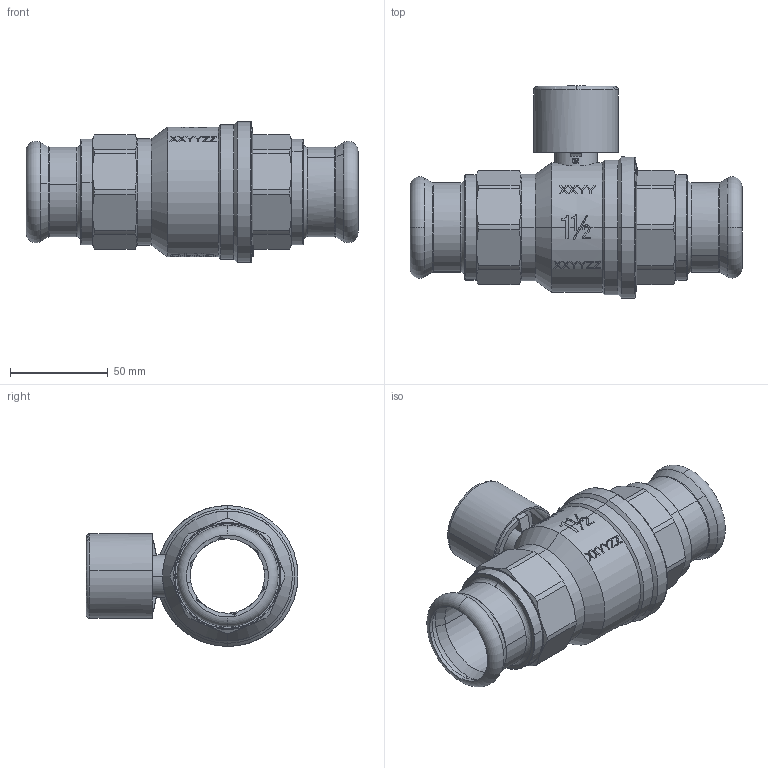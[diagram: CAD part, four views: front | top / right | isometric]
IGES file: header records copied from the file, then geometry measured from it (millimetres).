
Global section: file name: No Iges File Name specified; native system: AutoDesk Inventor R12.0; preprocessor: AutoDesk Inventor Iges Exporter R12.0; date: 20111212.112623; units: millimetre
Bounding box: 170.2 x 108.66 x 72.3 mm (x, y, z)
Volume: 232531.7 mm3; surface area: 83771.2 mm2
Topology: 1 solids, 1 shells, 971 faces, 2732 edges, 1823 vertices
Faces by surface type: plane 456, bspline 244, cylinder 93, cone 82, revolution 80, torus 16
